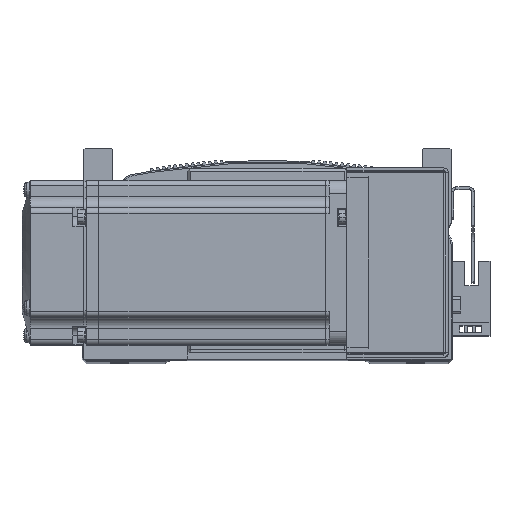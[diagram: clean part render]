
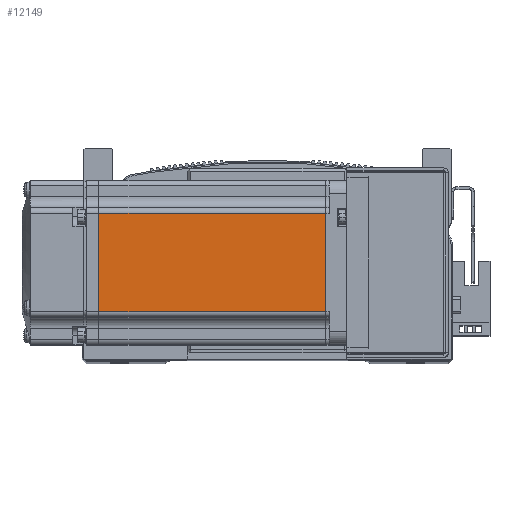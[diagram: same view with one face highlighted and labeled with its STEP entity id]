
A CAD part, top view. The second image highlights one B-rep face of the part: STEP entity #12149.
In plain terms, the highlighted planar face has unit normal (0, 0, 1) as drawn and (0, -1, 0) by its records, which use the part's own axes.
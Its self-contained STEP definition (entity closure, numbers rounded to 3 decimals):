
#9445 = AXIS2_PLACEMENT_3D ( 'NONE', #26461, #26458, #26480 ) ;
#12149 = ADVANCED_FACE ( 'NONE', ( #35580 ), #26498, .T. ) ;
#24300 = ORIENTED_EDGE ( 'NONE', *, *, #40337, .T. ) ;
#24316 = ORIENTED_EDGE ( 'NONE', *, *, #40358, .F. ) ;
#24317 = ORIENTED_EDGE ( 'NONE', *, *, #40352, .T. ) ;
#24335 = ORIENTED_EDGE ( 'NONE', *, *, #40377, .F. ) ;
#26458 = DIRECTION ( 'NONE',  ( 0., -1., 0. ) ) ;
#26461 = CARTESIAN_POINT ( 'NONE',  ( -6.5, -30., -25. ) ) ;
#26480 = DIRECTION ( 'NONE',  ( 0., 0., -1. ) ) ;
#26498 = PLANE ( 'NONE',  #9445 ) ;
#35580 = FACE_OUTER_BOUND ( 'NONE', #71593, .T. ) ;
#40337 = EDGE_CURVE ( 'NONE', #45111, #45096, #49294, .T. ) ;
#40352 = EDGE_CURVE ( 'NONE', #45096, #45081, #49283, .T. ) ;
#40358 = EDGE_CURVE ( 'NONE', #45111, #45114, #49267, .T. ) ;
#40377 = EDGE_CURVE ( 'NONE', #45114, #45081, #49381, .T. ) ;
#45081 = VERTEX_POINT ( 'NONE', #54806 ) ;
#45096 = VERTEX_POINT ( 'NONE', #54928 ) ;
#45111 = VERTEX_POINT ( 'NONE', #54846 ) ;
#45114 = VERTEX_POINT ( 'NONE', #54869 ) ;
#49267 = LINE ( 'NONE', #50535, #49357 ) ;
#49283 = LINE ( 'NONE', #50517, #49304 ) ;
#49294 = LINE ( 'NONE', #50508, #49322 ) ;
#49304 = VECTOR ( 'NONE', #50521, 1000. ) ;
#49322 = VECTOR ( 'NONE', #50501, 1000. ) ;
#49357 = VECTOR ( 'NONE', #50536, 1000. ) ;
#49381 = LINE ( 'NONE', #50613, #49382 ) ;
#49382 = VECTOR ( 'NONE', #50582, 1000. ) ;
#50501 = DIRECTION ( 'NONE',  ( -1., 0., 0. ) ) ;
#50508 = CARTESIAN_POINT ( 'NONE',  ( -6.5, -30., 18. ) ) ;
#50517 = CARTESIAN_POINT ( 'NONE',  ( -90.45, -30., 0. ) ) ;
#50521 = DIRECTION ( 'NONE',  ( 0., 0., -1. ) ) ;
#50535 = CARTESIAN_POINT ( 'NONE',  ( -7.75, -30., 0. ) ) ;
#50536 = DIRECTION ( 'NONE',  ( 0., 0., -1. ) ) ;
#50582 = DIRECTION ( 'NONE',  ( -1., 0., 0. ) ) ;
#50613 = CARTESIAN_POINT ( 'NONE',  ( -6.5, -30., -18. ) ) ;
#54806 = CARTESIAN_POINT ( 'NONE',  ( -90.45, -30., -18. ) ) ;
#54846 = CARTESIAN_POINT ( 'NONE',  ( -7.75, -30., 18. ) ) ;
#54869 = CARTESIAN_POINT ( 'NONE',  ( -7.75, -30., -18. ) ) ;
#54928 = CARTESIAN_POINT ( 'NONE',  ( -90.45, -30., 18. ) ) ;
#71593 = EDGE_LOOP ( 'NONE', ( #24316, #24300, #24317, #24335 ) ) ;
